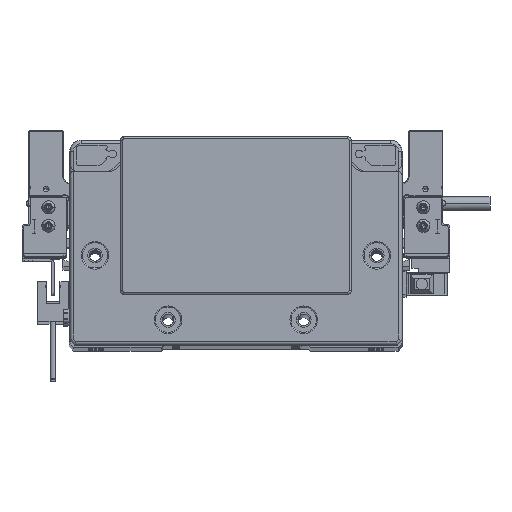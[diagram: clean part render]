
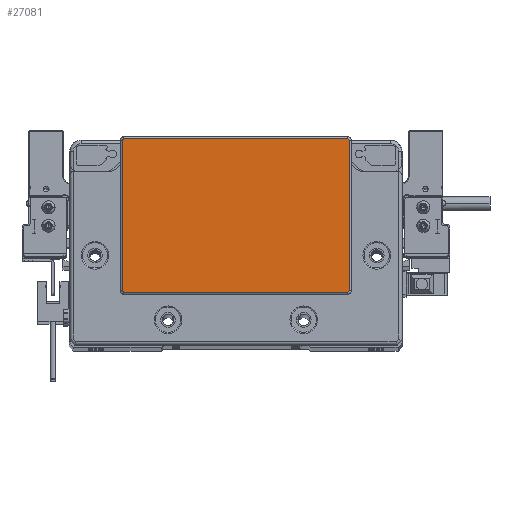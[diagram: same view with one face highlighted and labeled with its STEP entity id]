
A CAD part, top view. The second image highlights one B-rep face of the part: STEP entity #27081.
In plain terms, the highlighted planar face has unit normal (0, 0, 1) as drawn and (0, 0, -1) by its records, which use the part's own axes.
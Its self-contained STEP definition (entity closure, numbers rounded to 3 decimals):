
#561 = ORIENTED_EDGE ( 'NONE', *, *, #61031, .T. ) ;
#1799 = CIRCLE ( 'NONE', #3195, 0.5 ) ;
#1848 = FACE_OUTER_BOUND ( 'NONE', #18552, .T. ) ;
#2708 = CARTESIAN_POINT ( 'NONE',  ( 0., 0., -2. ) ) ;
#3154 = PLANE ( 'NONE',  #30504 ) ;
#3195 = AXIS2_PLACEMENT_3D ( 'NONE', #54797, #61979, #40385 ) ;
#4088 = DIRECTION ( 'NONE',  ( -1., 0., 0. ) ) ;
#4798 = CARTESIAN_POINT ( 'NONE',  ( 48.75, 44.3, -2. ) ) ;
#5906 = CARTESIAN_POINT ( 'NONE',  ( -49.25, 43.8, -2. ) ) ;
#6606 = EDGE_CURVE ( 'NONE', #10663, #86104, #82287, .T. ) ;
#10663 = VERTEX_POINT ( 'NONE', #38958 ) ;
#10786 = ORIENTED_EDGE ( 'NONE', *, *, #46078, .T. ) ;
#11723 = VECTOR ( 'NONE', #81829, 1000. ) ;
#15893 = DIRECTION ( 'NONE',  ( 0., -1., 0. ) ) ;
#18552 = EDGE_LOOP ( 'NONE', ( #72662, #72606, #46888, #10786, #23482, #561, #44929, #23331 ) ) ;
#19755 = CARTESIAN_POINT ( 'NONE',  ( -48.75, -22.3, -2. ) ) ;
#22390 = CARTESIAN_POINT ( 'NONE',  ( -48.75, -22.3, -2. ) ) ;
#23331 = ORIENTED_EDGE ( 'NONE', *, *, #77998, .T. ) ;
#23482 = ORIENTED_EDGE ( 'NONE', *, *, #6606, .T. ) ;
#24294 = EDGE_CURVE ( 'NONE', #50366, #29554, #56978, .T. ) ;
#25779 = VERTEX_POINT ( 'NONE', #40731 ) ;
#27081 = ADVANCED_FACE ( 'NONE', ( #1848 ), #3154, .T. ) ;
#28043 = DIRECTION ( 'NONE',  ( -1., 0., 0. ) ) ;
#28438 = EDGE_CURVE ( 'NONE', #25779, #34896, #40206, .T. ) ;
#29554 = VERTEX_POINT ( 'NONE', #81674 ) ;
#30504 = AXIS2_PLACEMENT_3D ( 'NONE', #2708, #51040, #43407 ) ;
#32655 = CIRCLE ( 'NONE', #77344, 0.5 ) ;
#32962 = DIRECTION ( 'NONE',  ( 1., 0., 0. ) ) ;
#34525 = VERTEX_POINT ( 'NONE', #60859 ) ;
#34896 = VERTEX_POINT ( 'NONE', #4798 ) ;
#35676 = CARTESIAN_POINT ( 'NONE',  ( 48.75, -21.8, -2. ) ) ;
#38958 = CARTESIAN_POINT ( 'NONE',  ( -49.25, -21.8, -2. ) ) ;
#40206 = LINE ( 'NONE', #87541, #72247 ) ;
#40385 = DIRECTION ( 'NONE',  ( -1., 0., 0. ) ) ;
#40504 = DIRECTION ( 'NONE',  ( 0., 0., -1. ) ) ;
#40731 = CARTESIAN_POINT ( 'NONE',  ( -48.75, 44.3, -2. ) ) ;
#43407 = DIRECTION ( 'NONE',  ( -1., 0., 0. ) ) ;
#43662 = VECTOR ( 'NONE', #15893, 1000. ) ;
#44664 = AXIS2_PLACEMENT_3D ( 'NONE', #45653, #85804, #4088 ) ;
#44929 = ORIENTED_EDGE ( 'NONE', *, *, #28438, .T. ) ;
#45206 = CARTESIAN_POINT ( 'NONE',  ( 49.25, 43.8, -2. ) ) ;
#45653 = CARTESIAN_POINT ( 'NONE',  ( 48.75, 43.8, -2. ) ) ;
#46078 = EDGE_CURVE ( 'NONE', #71185, #10663, #32655, .T. ) ;
#46888 = ORIENTED_EDGE ( 'NONE', *, *, #89207, .T. ) ;
#47707 = CARTESIAN_POINT ( 'NONE',  ( -48.75, -21.8, -2. ) ) ;
#48050 = CARTESIAN_POINT ( 'NONE',  ( -49.25, 43.8, -2. ) ) ;
#50366 = VERTEX_POINT ( 'NONE', #45206 ) ;
#51040 = DIRECTION ( 'NONE',  ( 0., 0., -1. ) ) ;
#54797 = CARTESIAN_POINT ( 'NONE',  ( -48.75, 43.8, -2. ) ) ;
#55535 = VECTOR ( 'NONE', #87908, 1000. ) ;
#56189 = CIRCLE ( 'NONE', #44664, 0.5 ) ;
#56978 = LINE ( 'NONE', #84492, #43662 ) ;
#60859 = CARTESIAN_POINT ( 'NONE',  ( 48.75, -22.3, -2. ) ) ;
#61031 = EDGE_CURVE ( 'NONE', #86104, #25779, #1799, .T. ) ;
#61640 = DIRECTION ( 'NONE',  ( -1., 0., 0. ) ) ;
#61979 = DIRECTION ( 'NONE',  ( 0., 0., -1. ) ) ;
#63170 = DIRECTION ( 'NONE',  ( 0., 0., -1. ) ) ;
#71185 = VERTEX_POINT ( 'NONE', #22390 ) ;
#72247 = VECTOR ( 'NONE', #32962, 1000. ) ;
#72606 = ORIENTED_EDGE ( 'NONE', *, *, #82600, .T. ) ;
#72662 = ORIENTED_EDGE ( 'NONE', *, *, #24294, .T. ) ;
#73914 = LINE ( 'NONE', #19755, #55535 ) ;
#74954 = AXIS2_PLACEMENT_3D ( 'NONE', #35676, #63170, #28043 ) ;
#77344 = AXIS2_PLACEMENT_3D ( 'NONE', #47707, #40504, #61640 ) ;
#77998 = EDGE_CURVE ( 'NONE', #34896, #50366, #56189, .T. ) ;
#81674 = CARTESIAN_POINT ( 'NONE',  ( 49.25, -21.8, -2. ) ) ;
#81829 = DIRECTION ( 'NONE',  ( 0., 1., 0. ) ) ;
#82287 = LINE ( 'NONE', #48050, #11723 ) ;
#82600 = EDGE_CURVE ( 'NONE', #29554, #34525, #84997, .T. ) ;
#84492 = CARTESIAN_POINT ( 'NONE',  ( 49.25, -21.8, -2. ) ) ;
#84997 = CIRCLE ( 'NONE', #74954, 0.5 ) ;
#85804 = DIRECTION ( 'NONE',  ( 0., 0., -1. ) ) ;
#86104 = VERTEX_POINT ( 'NONE', #5906 ) ;
#87541 = CARTESIAN_POINT ( 'NONE',  ( 48.75, 44.3, -2. ) ) ;
#87908 = DIRECTION ( 'NONE',  ( -1., 0., 0. ) ) ;
#89207 = EDGE_CURVE ( 'NONE', #34525, #71185, #73914, .T. ) ;
